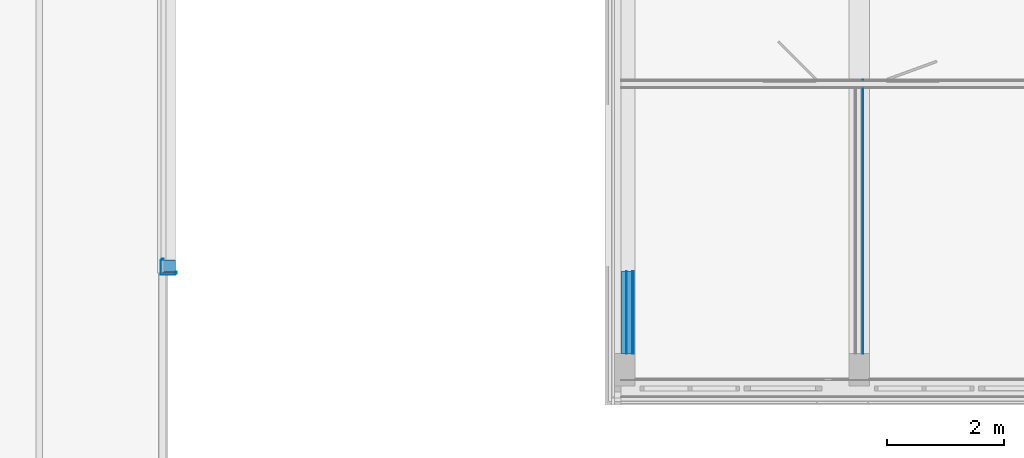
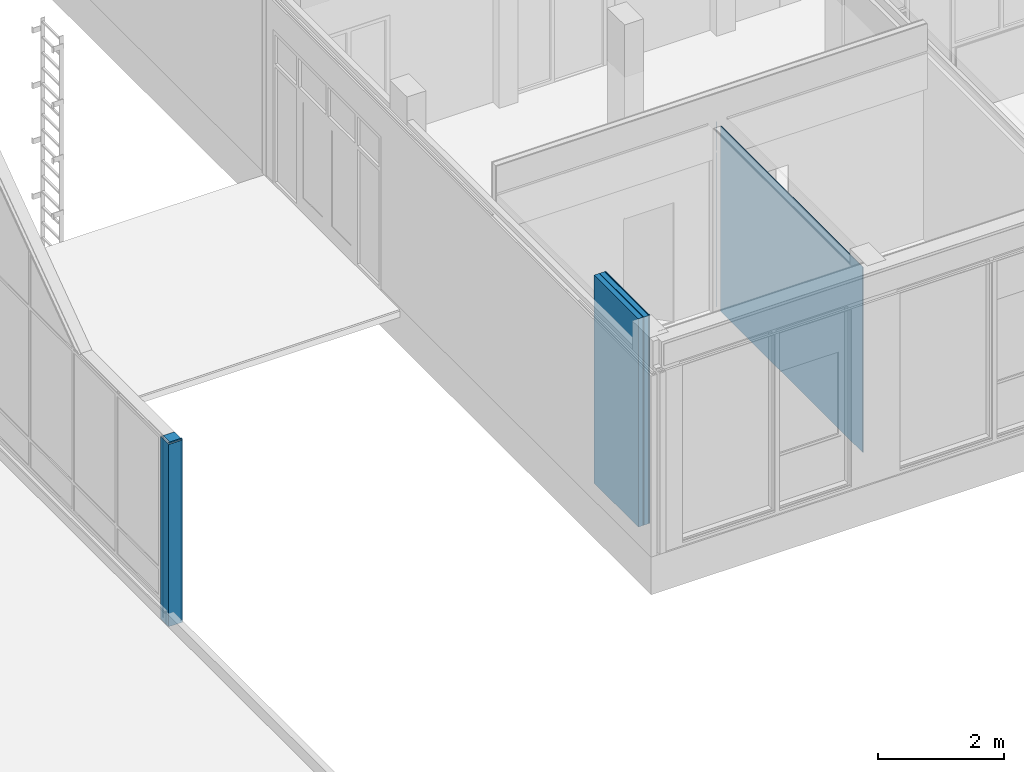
# One storey, part 20 of 54: 11 building element parts, 3 elements without a shape of their own.
"""IFC2X3 building model written with IfcOpenShell, lengths in millimetres."""

from ifc_helpers import new_model, entity, si_unit, converted_unit, derived_unit, money_unit, direction, frame, origin_with_axes, place, context, subcontext, project, spatial, faceted_brep, material, type_object, element, aggregate, save


model = new_model("IFC2X3")

# Units and contexts
model_context = context("Model", 3, precision=0.01, world=origin_with_axes(), true_north=direction((0.0, 1.0)))
body_context = subcontext(model_context, "Body", "Model", "MODEL_VIEW")
ifc_project = project(units=[si_unit("LENGTHUNIT", "METRE", prefix="MILLI"), si_unit("AREAUNIT", "SQUARE_METRE"), si_unit("VOLUMEUNIT", "CUBIC_METRE"), converted_unit("PLANEANGLEUNIT", "DEGREE", entity("IfcPlaneAngleMeasure", 0.0174532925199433), si_unit("PLANEANGLEUNIT", "RADIAN"), dimensions=[0, 0, 0, 0, 0, 0, 0]), money_unit("EUR"), converted_unit("TIMEUNIT", "Year", entity("IfcTimeMeasure", 31557600.0), si_unit("TIMEUNIT", "SECOND"), dimensions=[0, 0, 1, 0, 0, 0, 0]), si_unit("MASSUNIT", "GRAM", prefix="KILO"), si_unit("THERMODYNAMICTEMPERATUREUNIT", "DEGREE_CELSIUS"), si_unit("LUMINOUSINTENSITYUNIT", "LUMEN"), si_unit("ENERGYUNIT", "JOULE", prefix="MEGA"), derived_unit("THERMALCONDUCTANCEUNIT", [(si_unit("POWERUNIT", "WATT"), 1), (si_unit("LENGTHUNIT", "METRE"), -1), (si_unit("THERMODYNAMICTEMPERATUREUNIT", "KELVIN"), -1)]), derived_unit("SPECIFICHEATCAPACITYUNIT", [(si_unit("ENERGYUNIT", "JOULE"), 1), (si_unit("MASSUNIT", "GRAM", prefix="KILO"), -1), (si_unit("THERMODYNAMICTEMPERATUREUNIT", "KELVIN"), -1)]), derived_unit("MASSDENSITYUNIT", [(si_unit("MASSUNIT", "GRAM", prefix="KILO"), 1), (si_unit("VOLUMEUNIT", "CUBIC_METRE"), -1)])], contexts=[model_context])

# Site, building, storey
site_placement = place(None, origin_with_axes())
site = spatial("IfcSite", under=ifc_project, at=site_placement, Name="<site naam>", CompositionType="ELEMENT")
building_placement = place(site_placement, origin_with_axes())
building = spatial("IfcBuilding", under=site, at=building_placement, Name="<Naam gebouw>", CompositionType="ELEMENT")
storey_placement = place(building_placement, frame((0.0, 0.0, 8500.0), z_axis=(0.0, 0.0, 1.0), x_axis=(1.0, 0.0, 0.0)))
storey = spatial("IfcBuildingStorey", under=building, at=storey_placement, Name="02 2e verdieping", CompositionType="ELEMENT", Elevation=8500.0)

# Wall, building element part
wall_type_1 = type_object("IfcWallType", Name="MS-01 GF 150 ECO DGS/2.100.2.A 150", PredefinedType="NOTDEFINED")
wall_1_placement = place(storey_placement, frame((16000.00000000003, 5226.069214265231, 0.0), z_axis=(0.0, 0.0, 1.0), x_axis=(0.0, -1.0, 0.0)))
wall_1 = element("IfcWall", 1, at=wall_1_placement, inside=storey, type_object=wall_type_1, Name="22_Binnenwand_MS-01")
ifc_material_1 = material(Name="gipsplaat")
building_element_part_1_placement = place(wall_1_placement, origin_with_axes())
building_element_part_1 = element("IfcBuildingElementPart", 2, at=building_element_part_1_placement, material=ifc_material_1, Name="gipsplaat", context=body_context, shape_type="Brep", body=[
    faceted_brep([(151.0692142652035, 62.5, 3610.000000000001), (151.0692142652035, 74.99999999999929, 3610.000000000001), (151.0692142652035, 74.99999999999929, 3.000000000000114), (151.0692142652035, 62.5, 3.000000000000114), (4676.069214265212, 74.99999999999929, 3610.000000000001), (4676.069214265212, 62.5, 3610.000000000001), (4676.069214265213, 74.99999999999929, 3.000000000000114), (4676.069214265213, 62.5, 3.000000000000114)], [[[0, 1, 2, 3]], [[4, 1, 0, 5]], [[1, 4, 6, 2]], [[7, 3, 2, 6]], [[5, 0, 3, 7]], [[4, 5, 7, 6]]]),
    faceted_brep([(0.0, 62.5, 3610.000000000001), (0.0, 74.99999999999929, 3610.000000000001), (0.0, 74.99999999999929, 3039.999999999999), (0.0, 62.5, 3039.999999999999), (1.069214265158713, 74.99999999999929, 3610.000000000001), (1.069214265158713, 62.5, 3610.000000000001), (1.069214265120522, 74.99999999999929, 3039.999999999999), (1.069214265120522, 62.5, 3039.999999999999)], [[[0, 1, 2, 3]], [[4, 1, 0, 5]], [[1, 4, 6, 2]], [[7, 3, 2, 6]], [[5, 0, 3, 7]], [[4, 5, 7, 6]]]),
    faceted_brep([(1.069214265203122, 74.99999999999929, 3.000000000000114), (0.0, 74.99999999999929, 3.000000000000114), (0.0, 74.99999999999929, 3000.0), (1.069214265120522, 74.99999999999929, 3000.0), (0.0, 62.5, 3.000000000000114), (1.069214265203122, 62.5, 3.000000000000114), (0.0, 62.5, 3000.0), (1.069214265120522, 62.5, 3000.0)], [[[0, 1, 2, 3]], [[4, 1, 0, 5]], [[1, 4, 6, 2]], [[3, 2, 6, 7]], [[5, 0, 3, 7]], [[4, 5, 7, 6]]]),
])
aggregate(wall_1, [building_element_part_1])

# Wall, building element parts
wall_type_2 = type_object("IfcWallType", Name="therm. voorzetwand 215mm 215", PredefinedType="NOTDEFINED")
wall_2_placement = place(storey_placement, frame((11934.99991056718, 549.9999344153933, 0.0), z_axis=(0.0, 0.0, 1.0), x_axis=(0.0, 1.0, 0.0)))
wall_2 = element("IfcWall", 3, at=wall_2_placement, inside=storey, type_object=wall_type_2, Name="22_Binnenwand_therm.")
ifc_material_2 = material(Name="isolatie_steenwol")
building_element_part_2_placement = place(wall_2_placement, origin_with_axes())
building_element_part_2 = element("IfcBuildingElementPart", 4, at=building_element_part_2_placement, material=ifc_material_2, Name="isolatie_steenwol", context=body_context, shape_type="Brep", body=[
    faceted_brep([(1404.999911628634, 0.0, 4050.000014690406), (1404.999911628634, -89.99999999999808, 4050.000014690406), (1404.999911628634, -89.99999999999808, 0.0), (1404.999911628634, 0.0, 0.0), (0.0, -89.99999999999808, 4050.000014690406), (0.0, 0.0, 4050.000014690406), (0.0, -89.99999999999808, 0.0), (0.0, 0.0, 0.0)], [[[0, 1, 2, 3]], [[4, 1, 0, 5]], [[1, 4, 6, 2]], [[7, 3, 2, 6]], [[5, 0, 3, 7]], [[4, 5, 7, 6]]]),
])
building_element_part_3_placement = place(wall_2_placement, origin_with_axes())
building_element_part_3 = element("IfcBuildingElementPart", 5, at=building_element_part_3_placement, material=ifc_material_1, Name="gipsplaat", context=body_context, shape_type="Brep", body=[
    faceted_brep([(1404.999911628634, -189.9999999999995, 4050.000014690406), (1404.999911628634, -202.5000000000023, 4050.000014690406), (1404.999911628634, -202.5000000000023, 0.0), (1404.999911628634, -189.9999999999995, 0.0), (0.0, -202.5000000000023, 4050.000014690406), (0.0, -189.9999999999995, 4050.000014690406), (0.0, -202.5000000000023, 0.0), (0.0, -189.9999999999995, 0.0)], [[[0, 1, 2, 3]], [[4, 1, 0, 5]], [[1, 4, 6, 2]], [[7, 3, 2, 6]], [[5, 0, 3, 7]], [[4, 5, 7, 6]]]),
])
ifc_material_3 = material(Name="metal_stud")
building_element_part_4_placement = place(wall_2_placement, origin_with_axes())
building_element_part_4 = element("IfcBuildingElementPart", 6, at=building_element_part_4_placement, material=ifc_material_3, Name="metal_stud", context=body_context, shape_type="Brep", body=[
    faceted_brep([(1404.999911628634, -89.99999999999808, 4050.000014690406), (1404.999911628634, -99.99999999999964, 4050.000014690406), (1404.999911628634, -99.99999999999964, 0.0), (1404.999911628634, -89.99999999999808, 0.0), (0.0, -99.99999999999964, 4050.000014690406), (0.0, -89.99999999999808, 4050.000014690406), (0.0, -99.99999999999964, 0.0), (0.0, -89.99999999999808, 0.0)], [[[0, 1, 2, 3]], [[4, 1, 0, 5]], [[1, 4, 6, 2]], [[7, 3, 2, 6]], [[5, 0, 3, 7]], [[4, 5, 7, 6]]]),
])
building_element_part_5_placement = place(wall_2_placement, origin_with_axes())
building_element_part_5 = element("IfcBuildingElementPart", 7, at=building_element_part_5_placement, material=ifc_material_1, Name="gipsplaat", context=body_context, shape_type="Brep", body=[
    faceted_brep([(1404.999911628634, -202.5000000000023, 4050.000014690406), (1404.999911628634, -214.9999999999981, 4050.000014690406), (1404.999911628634, -214.9999999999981, 0.0), (1404.999911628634, -202.5000000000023, 0.0), (0.0, -214.9999999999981, 4050.000014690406), (0.0, -202.5000000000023, 4050.000014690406), (0.0, -214.9999999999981, 0.0), (0.0, -202.5000000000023, 0.0)], [[[0, 1, 2, 3]], [[4, 1, 0, 5]], [[1, 4, 6, 2]], [[7, 3, 2, 6]], [[5, 0, 3, 7]], [[4, 5, 7, 6]]]),
])
building_element_part_6_placement = place(wall_2_placement, origin_with_axes())
building_element_part_6 = element("IfcBuildingElementPart", 8, at=building_element_part_6_placement, material=ifc_material_2, Name="isolatie_steenwol", context=body_context, shape_type="Brep", body=[
    faceted_brep([(1404.999911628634, -99.99999999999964, 4050.000014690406), (1404.999911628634, -189.9999999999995, 4050.000014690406), (1404.999911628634, -189.9999999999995, 0.0), (1404.999911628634, -99.99999999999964, 0.0), (0.0, -189.9999999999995, 4050.000014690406), (0.0, -99.99999999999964, 4050.000014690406), (0.0, -189.9999999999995, 0.0), (0.0, -99.99999999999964, 0.0)], [[[0, 1, 2, 3]], [[4, 1, 0, 5]], [[1, 4, 6, 2]], [[7, 3, 2, 6]], [[5, 0, 3, 7]], [[4, 5, 7, 6]]]),
])
aggregate(wall_2, [building_element_part_2, building_element_part_3, building_element_part_4, building_element_part_5, building_element_part_6])

# Column, building element parts
column_type = type_object("IfcColumnType", Name="aluminium zetwerk hoek vliesgevel 272 x 272", PredefinedType="COLUMN")
column_placement = place(storey_placement, frame((4071.524650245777, 1895.019464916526, 0.0), z_axis=(0.0, 0.0, 1.0), x_axis=(1.0, 0.0, 0.0)))
column = element("IfcColumn", 9, at=column_placement, inside=storey, type_object=column_type, Name="41_Kolom_aluminium", ObjectType="COLUMN")
ifc_material_4 = material(Name="ALG - ISOLATIE met lijn")
building_element_part_7_placement = place(column_placement, origin_with_axes())
building_element_part_7 = element("IfcBuildingElementPart", 10, at=building_element_part_7_placement, material=ifc_material_4, Name="ALG - ISOLATIE met lijn", context=body_context, shape_type="Brep", body=[
    faceted_brep([(93.52118475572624, 22.50000092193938, 259.9999999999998), (93.52118475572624, 22.50000092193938, 0.0), (272.468059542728, 22.50000092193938, 0.0), (272.468059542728, 22.50000092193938, 3544.999975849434), (22.49999655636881, 22.50000092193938, 3544.999975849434), (22.49999655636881, 22.50000092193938, 259.9999999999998), (119.7139282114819, 22.50000092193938, 95.56563988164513), (119.7139282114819, 22.50000092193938, 81.1728367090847), (151.5139216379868, 22.50000092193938, 75.56563988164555), (151.5139216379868, 22.50000092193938, 55.56562519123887), (150.3139282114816, 22.50000092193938, 55.56562519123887), (150.3139282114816, 22.50000092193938, 74.5587191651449), (118.5139282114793, 22.50000092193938, 80.16591715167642), (118.5139282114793, 22.50000092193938, 95.56563988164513), (121.7139282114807, 22.50000092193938, 259.0654609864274), (121.7139282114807, 22.50000092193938, 249.1686867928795), (153.5139282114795, 22.50000092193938, 245.065460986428), (153.5139282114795, 22.50000092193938, 50.56563146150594), (148.3139282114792, 22.50000092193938, 50.56563146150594), (148.3139282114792, 22.50000092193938, 67.56563146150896), (149.5139282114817, 22.50000092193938, 67.56563146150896), (149.5139282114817, 22.50000092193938, 51.76563146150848), (152.3219055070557, 22.50000092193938, 51.76563146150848), (152.3219055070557, 22.50000092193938, 243.767837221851), (120.5139282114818, 22.50000092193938, 247.8720932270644), (120.5139282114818, 22.50000092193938, 259.0654609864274), (152.5206209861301, 22.50000092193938, 300.0656399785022), (153.2277277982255, 22.50000092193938, 299.7727467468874), (153.5206210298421, 22.50000092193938, 299.0656399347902), (153.5206210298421, 22.50000092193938, 256.0656399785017), (153.2277278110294, 22.50000092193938, 255.3585331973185), (152.5206210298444, 22.50000092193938, 255.0656399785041), (152.0206424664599, 22.50000092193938, 255.1996022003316), (145.8220374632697, 22.50000092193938, 258.7781639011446), (145.5423376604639, 22.50000092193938, 259.1426290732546), (145.6022419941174, 22.50000092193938, 259.5981269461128), (145.9666656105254, 22.50000092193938, 259.8778808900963), (146.4221723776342, 22.50000092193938, 259.818044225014), (149.6221835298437, 22.50000092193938, 257.9718899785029), (149.6221835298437, 22.50000092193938, 258.5656399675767), (149.7686301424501, 22.50000092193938, 258.9191933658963), (150.1221835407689, 22.50000092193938, 259.0656399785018), (150.321402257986, 22.50000092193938, 259.0656399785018), (150.6749556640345, 22.50000092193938, 258.9191933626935), (150.8214022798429, 22.50000092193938, 258.5656399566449), (150.8214022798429, 22.50000092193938, 257.2785306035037), (151.5708990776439, 22.50000092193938, 256.8452277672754), (151.9081256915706, 22.50000092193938, 256.7855982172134), (152.2047513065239, 22.50000092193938, 256.9567435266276), (152.3219055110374, 22.50000092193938, 257.2785390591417), (152.3214022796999, 22.50000092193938, 287.0656484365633), (152.1749526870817, 22.50000092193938, 287.4191963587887), (151.8214022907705, 22.50000092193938, 287.5656399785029), (151.3214022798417, 22.50000092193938, 287.5656399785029), (150.9678488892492, 22.50000092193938, 287.4191933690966), (150.8214022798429, 22.50000092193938, 287.0656399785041), (150.8214022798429, 22.50000092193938, 285.5656399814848), (150.6749556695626, 22.50000092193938, 285.2120865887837), (150.3214022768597, 22.50000092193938, 285.0656399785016), (148.5479647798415, 22.50000092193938, 285.0656399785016), (143.342479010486, 22.50000092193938, 281.7461344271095), (143.2081210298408, 22.50000092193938, 281.4250149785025), (142.9503085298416, 22.50000092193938, 281.3156399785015), (142.6299960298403, 22.50000092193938, 281.4484524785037), (141.9796200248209, 22.50000092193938, 281.2060708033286), (141.8253085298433, 22.50000092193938, 280.8976712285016), (141.5557772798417, 22.50000092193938, 280.8078274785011), (141.2471835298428, 22.50000092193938, 280.9640774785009), (135.3216939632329, 22.50000092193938, 280.0660257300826), (108.8712120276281, 22.50000092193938, 280.0656399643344), (108.624687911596, 22.50000092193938, 280.1677501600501), (108.5225741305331, 22.50000092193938, 280.4142727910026), (108.6250313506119, 22.50000092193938, 280.6611393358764), (108.872183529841, 22.50000092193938, 280.7629056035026), (113.5206210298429, 22.50000092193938, 281.2648587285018), (113.8214022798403, 22.50000092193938, 281.5656399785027), (116.2198397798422, 22.50000092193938, 281.5656399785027), (116.5206210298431, 22.50000092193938, 281.2648587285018), (119.5206210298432, 22.50000092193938, 281.2648587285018), (119.8214022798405, 22.50000092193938, 281.5656399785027), (122.2198397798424, 22.50000092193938, 281.5656399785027), (122.5206210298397, 22.50000092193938, 281.2648587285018), (125.5206210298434, 22.50000092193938, 281.2648587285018), (125.8214022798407, 22.50000092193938, 281.5656399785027), (128.2198397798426, 22.50000092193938, 281.5656399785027), (128.5206210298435, 22.50000092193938, 281.2648587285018), (131.5206210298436, 22.50000092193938, 281.2648587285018), (131.821402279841, 22.50000092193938, 281.5656399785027), (134.2198397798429, 22.50000092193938, 281.5656399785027), (134.5206210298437, 22.50000092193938, 281.2648587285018), (135.3214048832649, 22.50000092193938, 281.2648587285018), (143.5039517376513, 22.50000092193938, 283.1388770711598), (150.0552626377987, 22.50000092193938, 288.3873381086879), (150.8356179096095, 22.50000092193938, 288.7641736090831), (151.3228126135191, 22.50000092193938, 288.7648607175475), (152.0290073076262, 22.50000092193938, 289.058251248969), (152.3214022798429, 22.50000092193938, 289.7648587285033), (152.3214022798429, 22.50000092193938, 298.3664212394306), (152.1749556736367, 22.50000092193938, 298.7199746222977), (151.8214022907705, 22.50000092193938, 298.866421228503), (142.7198397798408, 22.50000092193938, 298.866421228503), (142.3662863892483, 22.50000092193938, 298.7199746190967), (142.219839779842, 22.50000092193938, 298.3664212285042), (142.219839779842, 22.50000092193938, 296.665249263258), (142.0449623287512, 22.50000092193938, 296.2428147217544), (141.6226702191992, 22.50000092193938, 296.0675936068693), (141.2000935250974, 22.50000092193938, 296.2421272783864), (141.0245288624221, 22.50000092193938, 296.6642766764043), (141.020623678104, 22.50000092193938, 299.064012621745), (141.3129398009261, 22.50000092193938, 299.7721708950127), (142.0206210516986, 22.50000092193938, 300.0656399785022), (93.52118475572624, 35.00000007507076, 0.0), (93.52118475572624, 35.00000007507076, 259.9999999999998), (93.47534975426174, 35.00000007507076, 0.0), (93.47534975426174, 50.95092030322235, 0.0), (94.4748700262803, 50.95092030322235, 5.680362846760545e-07), (94.4748700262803, 35.00000007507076, 5.680362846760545e-07), (253.4748700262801, 35.00000007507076, 5.680362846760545e-07), (253.4748700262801, 50.95092030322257, 5.664606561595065e-07), (258.5224156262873, 50.95092030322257, 0.0), (258.5224156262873, 52.50000131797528, 0.0), (272.468059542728, 52.50000131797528, 0.0), (272.468059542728, 52.50000131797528, 3544.999975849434), (51.99999973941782, 50.95092030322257, 3544.999975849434), (51.99999973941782, 52.50000131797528, 3544.999975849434), (22.49999655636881, 52.50000131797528, 3544.999975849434), (258.5224156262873, 52.50000131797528, 3544.999975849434), (258.5224156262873, 50.95092030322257, 3544.999975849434), (22.49999655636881, 35.00000007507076, 259.9999999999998), (22.49999655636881, 52.50000131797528, 269.9986434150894), (22.49999655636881, 35.00000007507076, 269.9986434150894), (93.47534975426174, 35.00000007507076, 259.9999999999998), (119.7139282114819, 35.00000007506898, 95.56563988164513), (119.7139282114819, 35.00000007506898, 81.1728367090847), (151.5139216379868, 35.00000007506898, 75.56563988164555), (151.5139216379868, 35.00000007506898, 55.56562519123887), (150.3139282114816, 35.00000007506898, 55.56562519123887), (150.3139282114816, 35.00000007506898, 74.5587191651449), (118.5139282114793, 35.00000007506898, 80.16591715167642), (118.5139282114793, 35.00000007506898, 95.56563988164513), (121.7139282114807, 35.00000007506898, 259.0654609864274), (121.7139282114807, 35.00000007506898, 249.1686867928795), (153.5139282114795, 35.00000007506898, 245.065460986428), (153.5139282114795, 35.00000007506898, 50.56563146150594), (148.3139282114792, 35.00000007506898, 50.56563146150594), (148.3139282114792, 35.00000007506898, 67.56563146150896), (149.5139282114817, 35.00000007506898, 67.56563146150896), (149.5139282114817, 35.00000007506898, 51.76563146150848), (152.3219055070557, 35.00000007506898, 51.76563146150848), (152.3219055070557, 35.00000007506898, 243.767837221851), (120.5139282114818, 35.00000007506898, 247.8720932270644), (120.5139282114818, 35.00000007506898, 259.0654609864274), (152.5206209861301, 35.00000007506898, 300.0656399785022), (153.2277277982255, 35.00000007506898, 299.7727467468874), (153.5206210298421, 35.00000007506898, 299.0656399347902), (153.5206210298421, 35.00000007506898, 256.0656399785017), (153.2277278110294, 35.00000007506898, 255.3585331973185), (152.5206210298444, 35.00000007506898, 255.0656399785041), (152.0206424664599, 35.00000007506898, 255.1996022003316), (145.8220374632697, 35.00000007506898, 258.7781639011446), (145.5423376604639, 35.00000007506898, 259.1426290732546), (145.6022419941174, 35.00000007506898, 259.5981269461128), (145.9666656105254, 35.00000007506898, 259.8778808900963), (146.4221723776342, 35.00000007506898, 259.818044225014), (149.6221835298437, 35.00000007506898, 257.9718899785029), (149.6221835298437, 35.00000007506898, 258.5656399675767), (149.7686301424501, 35.00000007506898, 258.9191933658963), (150.1221835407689, 35.00000007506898, 259.0656399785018), (150.321402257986, 35.00000007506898, 259.0656399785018), (150.6749556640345, 35.00000007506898, 258.9191933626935), (150.8214022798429, 35.00000007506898, 258.5656399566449), (150.8214022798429, 35.00000007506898, 257.2785306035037), (151.5708990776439, 35.00000007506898, 256.8452277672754), (151.9081256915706, 35.00000007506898, 256.7855982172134), (152.2047513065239, 35.00000007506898, 256.9567435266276), (152.3219055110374, 35.00000007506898, 257.2785390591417), (152.3214022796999, 35.00000007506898, 287.0656484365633), (152.1749526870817, 35.00000007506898, 287.4191963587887), (151.8214022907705, 35.00000007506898, 287.5656399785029), (151.3214022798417, 35.00000007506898, 287.5656399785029), (150.9678488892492, 35.00000007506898, 287.4191933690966), (150.8214022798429, 35.00000007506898, 287.0656399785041), (150.8214022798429, 35.00000007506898, 285.5656399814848), (150.6749556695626, 35.00000007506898, 285.2120865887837), (150.3214022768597, 35.00000007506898, 285.0656399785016), (148.5479647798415, 35.00000007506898, 285.0656399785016), (143.342479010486, 35.00000007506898, 281.7461344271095), (143.2081210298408, 35.00000007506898, 281.4250149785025), (142.9503085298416, 35.00000007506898, 281.3156399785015), (142.6299960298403, 35.00000007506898, 281.4484524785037), (141.9796200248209, 35.00000007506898, 281.2060708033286), (141.8253085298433, 35.00000007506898, 280.8976712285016), (141.5557772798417, 35.00000007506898, 280.8078274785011), (141.2471835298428, 35.00000007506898, 280.9640774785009), (135.3216939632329, 35.00000007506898, 280.0660257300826), (108.8712120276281, 35.00000007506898, 280.0656399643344), (108.624687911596, 35.00000007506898, 280.1677501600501), (108.5225741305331, 35.00000007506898, 280.4142727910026), (108.6250313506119, 35.00000007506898, 280.6611393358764), (108.872183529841, 35.00000007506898, 280.7629056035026), (113.5206210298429, 35.00000007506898, 281.2648587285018), (113.8214022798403, 35.00000007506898, 281.5656399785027), (116.2198397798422, 35.00000007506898, 281.5656399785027), (116.5206210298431, 35.00000007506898, 281.2648587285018), (119.5206210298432, 35.00000007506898, 281.2648587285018), (119.8214022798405, 35.00000007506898, 281.5656399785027), (122.2198397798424, 35.00000007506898, 281.5656399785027), (122.5206210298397, 35.00000007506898, 281.2648587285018), (125.5206210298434, 35.00000007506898, 281.2648587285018), (125.8214022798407, 35.00000007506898, 281.5656399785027), (128.2198397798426, 35.00000007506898, 281.5656399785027), (128.5206210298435, 35.00000007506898, 281.2648587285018), (131.5206210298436, 35.00000007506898, 281.2648587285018), (131.821402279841, 35.00000007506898, 281.5656399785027), (134.2198397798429, 35.00000007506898, 281.5656399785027), (134.5206210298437, 35.00000007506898, 281.2648587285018), (135.3214048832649, 35.00000007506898, 281.2648587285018), (143.5039517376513, 35.00000007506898, 283.1388770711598), (150.0552626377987, 35.00000007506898, 288.3873381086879), (150.8356179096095, 35.00000007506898, 288.7641736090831), (151.3228126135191, 35.00000007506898, 288.7648607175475), (152.0290073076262, 35.00000007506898, 289.058251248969), (152.3214022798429, 35.00000007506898, 289.7648587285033), (152.3214022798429, 35.00000007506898, 298.3664212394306), (152.1749556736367, 35.00000007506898, 298.7199746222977), (151.8214022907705, 35.00000007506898, 298.866421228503), (142.7198397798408, 35.00000007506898, 298.866421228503), (142.3662863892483, 35.00000007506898, 298.7199746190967), (142.219839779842, 35.00000007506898, 298.3664212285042), (142.219839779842, 35.00000007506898, 296.665249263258), (142.0449623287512, 35.00000007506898, 296.2428147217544), (141.6226702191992, 35.00000007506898, 296.0675936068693), (141.2000935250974, 35.00000007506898, 296.2421272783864), (141.0245288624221, 35.00000007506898, 296.6642766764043), (141.020623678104, 35.00000007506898, 299.064012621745), (141.3129398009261, 35.00000007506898, 299.7721708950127), (142.0206210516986, 35.00000007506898, 300.0656399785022), (93.47534975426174, 35.00000007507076, 269.9986434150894), (93.47534975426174, 50.95092030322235, 269.9986434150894), (51.99999973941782, 50.95092030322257, 269.9986434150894), (253.4748700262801, 50.95092030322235, 360.0000012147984), (94.4748700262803, 50.95092030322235, 360.0000012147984), (94.4748700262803, 35.00000007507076, 360.0000012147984), (253.4748700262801, 35.00000007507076, 360.0000012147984), (51.99999973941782, 52.50000131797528, 269.9986434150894)], [[[0, 1, 2, 3, 4, 5], [6, 7, 8, 9, 10, 11, 12, 13], [14, 15, 16, 17, 18, 19, 20, 21, 22, 23, 24, 25], [26, 27, 28, 29, 30, 31, 32, 33, 34, 35, 36, 37, 38, 39, 40, 41, 42, 43, 44, 45, 46, 47, 48, 49, 50, 51, 52, 53, 54, 55, 56, 57, 58, 59, 60, 61, 62, 63, 64, 65, 66, 67, 68, 69, 70, 71, 72, 73, 74, 75, 76, 77, 78, 79, 80, 81, 82, 83, 84, 85, 86, 87, 88, 89, 90, 91, 92, 93, 94, 95, 96, 97, 98, 99, 100, 101, 102, 103, 104, 105, 106, 107, 108, 109, 110]], [[111, 1, 0, 112]], [[111, 113, 114, 115, 116, 117, 118, 119, 120, 121, 2, 1]], [[3, 2, 121, 122]], [[123, 124, 125, 4, 3, 122, 126, 127]], [[128, 5, 4, 125, 129, 130]], [[0, 5, 128, 131, 112]], [[132, 133, 7, 6]], [[133, 134, 8, 7]], [[134, 135, 9, 8]], [[135, 136, 10, 9]], [[136, 137, 11, 10]], [[137, 138, 12, 11]], [[138, 139, 13, 12]], [[139, 132, 6, 13]], [[140, 141, 15, 14]], [[141, 142, 16, 15]], [[142, 143, 17, 16]], [[143, 144, 18, 17]], [[144, 145, 19, 18]], [[145, 146, 20, 19]], [[146, 147, 21, 20]], [[147, 148, 22, 21]], [[148, 149, 23, 22]], [[149, 150, 24, 23]], [[150, 151, 25, 24]], [[151, 140, 14, 25]], [[152, 153, 27, 26]], [[153, 154, 28, 27]], [[154, 155, 29, 28]], [[155, 156, 30, 29]], [[156, 157, 31, 30]], [[157, 158, 32, 31]], [[158, 159, 33, 32]], [[159, 160, 34, 33]], [[160, 161, 35, 34]], [[161, 162, 36, 35]], [[162, 163, 37, 36]], [[163, 164, 38, 37]], [[164, 165, 39, 38]], [[165, 166, 40, 39]], [[166, 167, 41, 40]], [[167, 168, 42, 41]], [[168, 169, 43, 42]], [[169, 170, 44, 43]], [[170, 171, 45, 44]], [[171, 172, 46, 45]], [[172, 173, 47, 46]], [[173, 174, 48, 47]], [[174, 175, 49, 48]], [[175, 176, 50, 49]], [[176, 177, 51, 50]], [[177, 178, 52, 51]], [[178, 179, 53, 52]], [[179, 180, 54, 53]], [[180, 181, 55, 54]], [[181, 182, 56, 55]], [[182, 183, 57, 56]], [[183, 184, 58, 57]], [[184, 185, 59, 58]], [[185, 186, 60, 59]], [[186, 187, 61, 60]], [[187, 188, 62, 61]], [[188, 189, 63, 62]], [[189, 190, 64, 63]], [[190, 191, 65, 64]], [[191, 192, 66, 65]], [[192, 193, 67, 66]], [[193, 194, 68, 67]], [[194, 195, 69, 68]], [[195, 196, 70, 69]], [[196, 197, 71, 70]], [[197, 198, 72, 71]], [[198, 199, 73, 72]], [[199, 200, 74, 73]], [[200, 201, 75, 74]], [[201, 202, 76, 75]], [[202, 203, 77, 76]], [[203, 204, 78, 77]], [[204, 205, 79, 78]], [[205, 206, 80, 79]], [[206, 207, 81, 80]], [[207, 208, 82, 81]], [[208, 209, 83, 82]], [[209, 210, 84, 83]], [[210, 211, 85, 84]], [[211, 212, 86, 85]], [[212, 213, 87, 86]], [[213, 214, 88, 87]], [[214, 215, 89, 88]], [[215, 216, 90, 89]], [[216, 217, 91, 90]], [[217, 218, 92, 91]], [[218, 219, 93, 92]], [[219, 220, 94, 93]], [[220, 221, 95, 94]], [[221, 222, 96, 95]], [[222, 223, 97, 96]], [[223, 224, 98, 97]], [[224, 225, 99, 98]], [[225, 226, 100, 99]], [[226, 227, 101, 100]], [[227, 228, 102, 101]], [[228, 229, 103, 102]], [[229, 230, 104, 103]], [[230, 231, 105, 104]], [[231, 232, 106, 105]], [[232, 233, 107, 106]], [[233, 234, 108, 107]], [[234, 235, 109, 108]], [[235, 236, 110, 109]], [[236, 152, 26, 110]], [[113, 111, 112, 131]], [[113, 131, 237, 238, 114]], [[238, 239, 123, 127, 119, 118, 240, 241, 115, 114]], [[115, 241, 242, 116]], [[117, 116, 242, 243], [136, 135, 134, 133, 132, 139, 138, 137], [144, 143, 142, 141, 140, 151, 150, 149, 148, 147, 146, 145], [156, 155, 154, 153, 152, 236, 235, 234, 233, 232, 231, 230, 229, 228, 227, 226, 225, 224, 223, 222, 221, 220, 219, 218, 217, 216, 215, 214, 213, 212, 211, 210, 209, 208, 207, 206, 205, 204, 203, 202, 201, 200, 199, 198, 197, 196, 195, 194, 193, 192, 191, 190, 189, 188, 187, 186, 185, 184, 183, 182, 181, 180, 179, 178, 177, 176, 175, 174, 173, 172, 171, 170, 169, 168, 167, 166, 165, 164, 163, 162, 161, 160, 159, 158, 157]], [[240, 118, 117, 243]], [[126, 120, 119, 127]], [[122, 121, 120, 126]], [[239, 244, 124, 123]], [[244, 129, 125, 124]], [[239, 238, 237, 130, 129, 244]], [[131, 128, 130, 237]], [[241, 240, 243, 242]]]),
])
ifc_material_5 = material(Name="Rubber")
building_element_part_8_placement = place(column_placement, origin_with_axes())
building_element_part_8 = element("IfcBuildingElementPart", 11, at=building_element_part_8_placement, material=ifc_material_5, Name="Rubber", context=body_context, shape_type="Brep", body=[
    faceted_brep([(52.50000194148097, 272.4680595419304, 3544.999975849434), (52.50000194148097, 272.4680595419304, 0.0), (52.50000194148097, 259.0029500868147, 0.0), (52.50000194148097, 259.0029500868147, 3544.999975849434), (54.50000310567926, 272.4680595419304, 3544.999975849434), (54.50000310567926, 272.4680595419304, 0.0), (54.50000310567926, 259.0029500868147, 0.0), (54.50000310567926, 259.0029500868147, 3544.999975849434)], [[[0, 1, 2, 3]], [[4, 5, 1, 0]], [[2, 1, 5, 6]], [[3, 2, 6, 7]], [[4, 0, 3, 7]], [[7, 6, 5, 4]]]),
    faceted_brep([(272.4680587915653, 54.49999725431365, 0.0), (258.5224159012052, 54.49999725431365, 0.0), (258.5224159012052, 54.49999725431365, 3544.999975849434), (272.4680587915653, 54.49999725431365, 3544.999975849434), (272.4680587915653, 52.50000269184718, 0.0), (258.5224159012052, 52.50000269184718, 0.0), (258.5224159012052, 52.50000269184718, 3544.999975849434), (272.4680587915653, 52.50000269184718, 3544.999975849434)], [[[0, 1, 2, 3]], [[0, 4, 5, 1]], [[1, 5, 6, 2]], [[3, 2, 6, 7]], [[4, 0, 3, 7]], [[5, 4, 7, 6]]]),
])
ifc_material_6 = material(Name="gevelafwerking type 3 - Aluminium RAL1036")
building_element_part_9_placement = place(column_placement, origin_with_axes())
building_element_part_9 = element("IfcBuildingElementPart", 12, at=building_element_part_9_placement, material=ifc_material_6, Name="gevelafwerking type 3 - Aluminium RAL1036", context=body_context, shape_type="Brep", body=[
    faceted_brep([(0.0, 0.0, 0.0), (253.4755065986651, 0.0, 0.0), (253.4755065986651, 0.0, 3544.999975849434), (0.0, 0.0, 3544.999975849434), (0.9530868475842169, 0.9530909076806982, 0.0), (1.000001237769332, 1.00000529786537, 0.0), (252.4756312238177, 1.00000529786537, 0.0), (252.4756312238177, 20.50000101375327, 0.0), (272.468059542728, 20.50000101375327, 0.0), (272.468059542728, 19.47333713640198, 0.0), (253.4755065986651, 19.47333713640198, 0.0), (253.4755065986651, 19.47333713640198, 3544.999975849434), (272.468059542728, 19.47333713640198, 3544.999975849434), (272.468059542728, 20.50000101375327, 3544.999975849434), (252.4756312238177, 20.50000101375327, 3544.999975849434), (252.4756312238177, 1.00000529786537, 3544.999975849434), (1.000001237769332, 1.00000529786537, 3544.999975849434), (0.9530868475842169, 0.9530909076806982, 3544.999975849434)], [[[0, 1, 2, 3]], [[0, 4, 5, 6, 7, 8, 9, 10, 1]], [[1, 10, 11, 2]], [[3, 2, 11, 12, 13, 14, 15, 16, 17]], [[4, 0, 3, 17]], [[5, 4, 17, 16]], [[6, 5, 16, 15]], [[7, 6, 15, 14]], [[8, 7, 14, 13]], [[9, 8, 13, 12]], [[10, 9, 12, 11]]]),
])
building_element_part_10_placement = place(column_placement, origin_with_axes())
building_element_part_10 = element("IfcBuildingElementPart", 13, at=building_element_part_10_placement, material=ifc_material_6, Name="gevelafwerking type 3 - Aluminium RAL1036", context=body_context, shape_type="Brep", body=[
    faceted_brep([(19.52642707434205, 254.0029513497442, 0.0), (0.0, 254.0029513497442, 0.0), (0.0, 254.0029513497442, 3544.999975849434), (19.52642707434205, 254.0029513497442, 3544.999975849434), (19.52642707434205, 272.4680588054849, 0.0), (20.49999265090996, 272.4680588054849, 0.0), (20.49999265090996, 253.0030740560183, 0.0), (0.9530945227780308, 253.0030740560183, 0.0), (0.9530888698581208, 0.9530921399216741, 0.0), (0.0, 0.0, 0.0), (0.0, 0.0, 3544.999975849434), (0.9530888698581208, 0.9530921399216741, 3544.999975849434), (0.9530945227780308, 253.0030740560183, 3544.999975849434), (20.49999265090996, 253.0030740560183, 3544.999975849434), (20.49999265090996, 272.4680588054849, 3544.999975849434), (19.52642707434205, 272.4680588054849, 3544.999975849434)], [[[0, 1, 2, 3]], [[0, 4, 5, 6, 7, 8, 9, 1]], [[1, 9, 10, 2]], [[3, 2, 10, 11, 12, 13, 14, 15]], [[4, 0, 3, 15]], [[5, 4, 15, 14]], [[6, 5, 14, 13]], [[7, 6, 13, 12]], [[8, 7, 12, 11]], [[9, 8, 11, 10]]]),
])
ifc_material_7 = material(Name="isolatie_kunststof_zacht")
building_element_part_11_placement = place(column_placement, origin_with_axes())
building_element_part_11 = element("IfcBuildingElementPart", 14, at=building_element_part_11_placement, material=ifc_material_7, Name="isolatie_kunststof_zacht", context=body_context, shape_type="Brep", body=[
    faceted_brep([(51.99999999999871, 259.002951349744, 0.0), (51.9999999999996, 50.9509195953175, 0.0), (51.9999999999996, 50.9509195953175, 3544.999975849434), (51.99999999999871, 259.002951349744, 3544.999975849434), (54.50000310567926, 259.0029500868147, 0.0), (258.5224163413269, 259.002951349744, 0.0), (258.5224159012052, 54.49999725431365, 0.0), (258.5224163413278, 50.9509195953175, 0.0), (258.5224163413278, 50.9509195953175, 3544.999975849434), (258.5224159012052, 54.49999725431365, 3544.999975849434), (258.5224163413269, 259.002951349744, 3544.999975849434), (54.50000310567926, 259.0029500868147, 3544.999975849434)], [[[0, 1, 2, 3]], [[0, 4, 5, 6, 7, 1]], [[1, 7, 8, 2]], [[3, 2, 8, 9, 10, 11]], [[4, 0, 3, 11]], [[5, 4, 11, 10]], [[6, 5, 10, 9]], [[7, 6, 9, 8]]]),
])
aggregate(column, [building_element_part_7, building_element_part_8, building_element_part_9, building_element_part_10, building_element_part_11])

save(model, "model.ifc")
